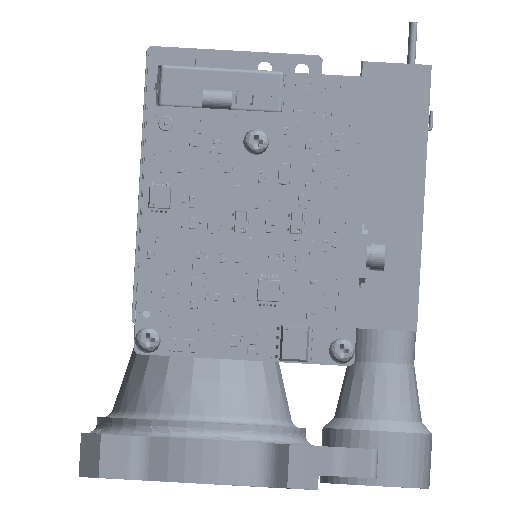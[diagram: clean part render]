
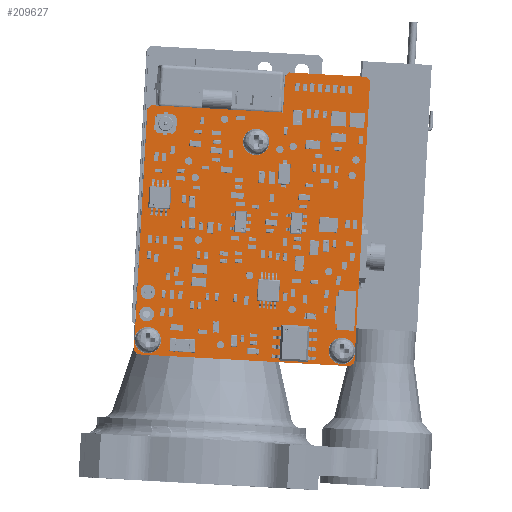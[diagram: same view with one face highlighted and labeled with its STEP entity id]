
A CAD part, front view. The second image highlights one B-rep face of the part: STEP entity #209627.
In plain terms, the highlighted planar face has unit normal (0.024, -1, 0) as drawn and (0, 0, 1) by its records, which use the part's own axes.
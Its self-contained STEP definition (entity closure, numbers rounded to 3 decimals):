
#209212=DIRECTION('',(-0.707,0.707,0.));
#209213=VECTOR('',#209212,0.707);
#209214=CARTESIAN_POINT('',(0.5,0.,0.));
#209215=LINE('',#209214,#209213);
#209216=DIRECTION('',(0.707,0.707,0.));
#209217=VECTOR('',#209216,0.707);
#209218=CARTESIAN_POINT('',(0.,39.,0.));
#209219=LINE('',#209218,#209217);
#209220=DIRECTION('',(0.707,-0.707,0.));
#209221=VECTOR('',#209220,0.707);
#209222=CARTESIAN_POINT('',(29.6,39.5,0.));
#209223=LINE('',#209222,#209221);
#209224=DIRECTION('',(-0.707,-0.707,0.));
#209225=VECTOR('',#209224,0.707);
#209226=CARTESIAN_POINT('',(30.1,6.,0.));
#209227=LINE('',#209226,#209225);
#209228=DIRECTION('',(-0.707,-0.707,0.));
#209229=VECTOR('',#209228,0.707);
#209230=CARTESIAN_POINT('',(11.6,0.5,0.));
#209231=LINE('',#209230,#209229);
#209232=CARTESIAN_POINT('',(15.05,9.7,0.));
#209233=DIRECTION('',(0.,0.,1.));
#209234=DIRECTION('',(-1.,0.,0.));
#209235=AXIS2_PLACEMENT_3D('',#209232,#209233,#209234);
#209237=CARTESIAN_POINT('',(15.05,9.7,0.));
#209238=DIRECTION('',(0.,0.,1.));
#209239=DIRECTION('',(1.,0.,0.));
#209240=AXIS2_PLACEMENT_3D('',#209237,#209238,#209239);
#209242=CARTESIAN_POINT('',(28.3,37.5,0.));
#209243=DIRECTION('',(0.,0.,1.));
#209244=DIRECTION('',(-1.,0.,0.));
#209245=AXIS2_PLACEMENT_3D('',#209242,#209243,#209244);
#209247=CARTESIAN_POINT('',(28.3,37.5,0.));
#209248=DIRECTION('',(0.,0.,1.));
#209249=DIRECTION('',(1.,0.,0.));
#209250=AXIS2_PLACEMENT_3D('',#209247,#209248,#209249);
#209252=CARTESIAN_POINT('',(28.645,33.948,0.));
#209253=DIRECTION('',(0.,0.,1.));
#209254=DIRECTION('',(-1.,0.,0.));
#209255=AXIS2_PLACEMENT_3D('',#209252,#209253,#209254);
#209257=CARTESIAN_POINT('',(28.645,33.948,0.));
#209258=DIRECTION('',(0.,0.,1.));
#209259=DIRECTION('',(1.,0.,0.));
#209260=AXIS2_PLACEMENT_3D('',#209257,#209258,#209259);
#209262=CARTESIAN_POINT('',(28.645,30.925,0.));
#209263=DIRECTION('',(0.,0.,1.));
#209264=DIRECTION('',(-1.,0.,0.));
#209265=AXIS2_PLACEMENT_3D('',#209262,#209263,#209264);
#209267=CARTESIAN_POINT('',(28.645,30.925,0.));
#209268=DIRECTION('',(0.,0.,1.));
#209269=DIRECTION('',(1.,0.,0.));
#209270=AXIS2_PLACEMENT_3D('',#209267,#209268,#209269);
#209272=CARTESIAN_POINT('',(1.8,37.5,0.));
#209273=DIRECTION('',(0.,0.,1.));
#209274=DIRECTION('',(-1.,0.,0.));
#209275=AXIS2_PLACEMENT_3D('',#209272,#209273,#209274);
#209277=CARTESIAN_POINT('',(1.8,37.5,0.));
#209278=DIRECTION('',(0.,0.,1.));
#209279=DIRECTION('',(1.,0.,0.));
#209280=AXIS2_PLACEMENT_3D('',#209277,#209278,#209279);
#209282=DIRECTION('',(1.,0.,0.));
#209283=VECTOR('',#209282,10.6);
#209284=CARTESIAN_POINT('',(0.5,0.,0.));
#209285=LINE('',#209284,#209283);
#209302=DIRECTION('',(0.,1.,0.));
#209303=VECTOR('',#209302,5.);
#209304=CARTESIAN_POINT('',(11.6,0.5,0.));
#209305=LINE('',#209304,#209303);
#209314=DIRECTION('',(1.,0.,0.));
#209315=VECTOR('',#209314,18.);
#209316=CARTESIAN_POINT('',(11.6,5.5,0.));
#209317=LINE('',#209316,#209315);
#209330=DIRECTION('',(0.,1.,0.));
#209331=VECTOR('',#209330,33.);
#209332=CARTESIAN_POINT('',(30.1,6.,0.));
#209333=LINE('',#209332,#209331);
#209346=DIRECTION('',(-1.,0.,0.));
#209347=VECTOR('',#209346,29.1);
#209348=CARTESIAN_POINT('',(29.6,39.5,0.));
#209349=LINE('',#209348,#209347);
#209362=DIRECTION('',(0.,-1.,0.));
#209363=VECTOR('',#209362,38.5);
#209364=CARTESIAN_POINT('',(0.,39.,0.));
#209365=LINE('',#209364,#209363);
#209484=CARTESIAN_POINT('',(0.5,0.,0.));
#209485=CARTESIAN_POINT('',(0.,0.5,0.));
#209486=VERTEX_POINT('',#209484);
#209487=VERTEX_POINT('',#209485);
#209488=CARTESIAN_POINT('',(0.,39.,0.));
#209489=VERTEX_POINT('',#209488);
#209490=CARTESIAN_POINT('',(0.5,39.5,0.));
#209491=VERTEX_POINT('',#209490);
#209492=CARTESIAN_POINT('',(29.6,39.5,0.));
#209493=VERTEX_POINT('',#209492);
#209494=CARTESIAN_POINT('',(30.1,39.,0.));
#209495=VERTEX_POINT('',#209494);
#209496=CARTESIAN_POINT('',(30.1,6.,0.));
#209497=VERTEX_POINT('',#209496);
#209498=CARTESIAN_POINT('',(29.6,5.5,0.));
#209499=VERTEX_POINT('',#209498);
#209500=CARTESIAN_POINT('',(11.6,5.5,0.));
#209501=VERTEX_POINT('',#209500);
#209502=CARTESIAN_POINT('',(11.6,0.5,0.));
#209503=VERTEX_POINT('',#209502);
#209504=CARTESIAN_POINT('',(11.1,0.,0.));
#209505=VERTEX_POINT('',#209504);
#209506=CARTESIAN_POINT('',(13.945,9.7,0.));
#209507=CARTESIAN_POINT('',(16.155,9.7,0.));
#209508=VERTEX_POINT('',#209506);
#209509=VERTEX_POINT('',#209507);
#209510=CARTESIAN_POINT('',(27.195,37.5,0.));
#209511=CARTESIAN_POINT('',(29.405,37.5,0.));
#209512=VERTEX_POINT('',#209510);
#209513=VERTEX_POINT('',#209511);
#209514=CARTESIAN_POINT('',(28.137,33.948,0.));
#209515=CARTESIAN_POINT('',(29.153,33.948,0.));
#209516=VERTEX_POINT('',#209514);
#209517=VERTEX_POINT('',#209515);
#209518=CARTESIAN_POINT('',(28.137,30.925,0.));
#209519=CARTESIAN_POINT('',(29.153,30.925,0.));
#209520=VERTEX_POINT('',#209518);
#209521=VERTEX_POINT('',#209519);
#209522=CARTESIAN_POINT('',(0.695,37.5,0.));
#209523=CARTESIAN_POINT('',(2.905,37.5,0.));
#209524=VERTEX_POINT('',#209522);
#209525=VERTEX_POINT('',#209523);
#209568=CARTESIAN_POINT('',(0.,0.5,0.));
#209569=DIRECTION('',(0.,0.,1.));
#209570=DIRECTION('',(1.,0.,0.));
#209571=AXIS2_PLACEMENT_3D('',#209568,#209569,#209570);
#209572=PLANE('',#209571);
#209574=ORIENTED_EDGE('',*,*,#209573,.T.);
#209576=ORIENTED_EDGE('',*,*,#209575,.F.);
#209578=ORIENTED_EDGE('',*,*,#209577,.T.);
#209580=ORIENTED_EDGE('',*,*,#209579,.F.);
#209582=ORIENTED_EDGE('',*,*,#209581,.T.);
#209584=ORIENTED_EDGE('',*,*,#209583,.F.);
#209586=ORIENTED_EDGE('',*,*,#209585,.T.);
#209588=ORIENTED_EDGE('',*,*,#209587,.F.);
#209590=ORIENTED_EDGE('',*,*,#209589,.F.);
#209592=ORIENTED_EDGE('',*,*,#209591,.T.);
#209594=ORIENTED_EDGE('',*,*,#209593,.F.);
#209595=EDGE_LOOP('',(#209574,#209576,#209578,#209580,#209582,#209584,#209586,
#209588,#209590,#209592,#209594));
#209596=FACE_OUTER_BOUND('',#209595,.F.);
#209598=ORIENTED_EDGE('',*,*,#209597,.T.);
#209600=ORIENTED_EDGE('',*,*,#209599,.T.);
#209601=EDGE_LOOP('',(#209598,#209600));
#209602=FACE_BOUND('',#209601,.F.);
#209604=ORIENTED_EDGE('',*,*,#209603,.T.);
#209606=ORIENTED_EDGE('',*,*,#209605,.T.);
#209607=EDGE_LOOP('',(#209604,#209606));
#209608=FACE_BOUND('',#209607,.F.);
#209610=ORIENTED_EDGE('',*,*,#209609,.T.);
#209612=ORIENTED_EDGE('',*,*,#209611,.T.);
#209613=EDGE_LOOP('',(#209610,#209612));
#209614=FACE_BOUND('',#209613,.F.);
#209616=ORIENTED_EDGE('',*,*,#209615,.T.);
#209618=ORIENTED_EDGE('',*,*,#209617,.T.);
#209619=EDGE_LOOP('',(#209616,#209618));
#209620=FACE_BOUND('',#209619,.F.);
#209622=ORIENTED_EDGE('',*,*,#209621,.T.);
#209624=ORIENTED_EDGE('',*,*,#209623,.T.);
#209625=EDGE_LOOP('',(#209622,#209624));
#209626=FACE_BOUND('',#209625,.F.);
#209627=ADVANCED_FACE('',(#209596,#209602,#209608,#209614,#209620,#209626),
#209572,.T.);
#209236=CIRCLE('',#209235,1.105);
#209241=CIRCLE('',#209240,1.105);
#209246=CIRCLE('',#209245,1.105);
#209251=CIRCLE('',#209250,1.105);
#209256=CIRCLE('',#209255,0.508);
#209261=CIRCLE('',#209260,0.508);
#209266=CIRCLE('',#209265,0.508);
#209271=CIRCLE('',#209270,0.508);
#209276=CIRCLE('',#209275,1.105);
#209281=CIRCLE('',#209280,1.105);
#209573=EDGE_CURVE('',#209486,#209487,#209215,.T.);
#209575=EDGE_CURVE('',#209489,#209487,#209365,.T.);
#209577=EDGE_CURVE('',#209489,#209491,#209219,.T.);
#209579=EDGE_CURVE('',#209493,#209491,#209349,.T.);
#209581=EDGE_CURVE('',#209493,#209495,#209223,.T.);
#209583=EDGE_CURVE('',#209497,#209495,#209333,.T.);
#209585=EDGE_CURVE('',#209497,#209499,#209227,.T.);
#209587=EDGE_CURVE('',#209501,#209499,#209317,.T.);
#209589=EDGE_CURVE('',#209503,#209501,#209305,.T.);
#209591=EDGE_CURVE('',#209503,#209505,#209231,.T.);
#209593=EDGE_CURVE('',#209486,#209505,#209285,.T.);
#209597=EDGE_CURVE('',#209508,#209509,#209236,.T.);
#209599=EDGE_CURVE('',#209509,#209508,#209241,.T.);
#209603=EDGE_CURVE('',#209512,#209513,#209246,.T.);
#209605=EDGE_CURVE('',#209513,#209512,#209251,.T.);
#209609=EDGE_CURVE('',#209516,#209517,#209256,.T.);
#209611=EDGE_CURVE('',#209517,#209516,#209261,.T.);
#209615=EDGE_CURVE('',#209520,#209521,#209266,.T.);
#209617=EDGE_CURVE('',#209521,#209520,#209271,.T.);
#209621=EDGE_CURVE('',#209524,#209525,#209276,.T.);
#209623=EDGE_CURVE('',#209525,#209524,#209281,.T.);
